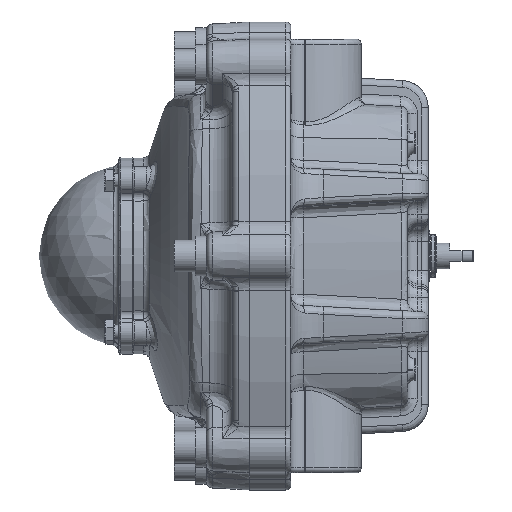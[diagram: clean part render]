
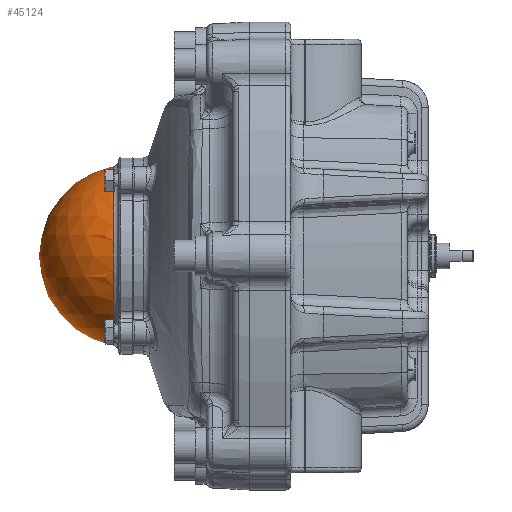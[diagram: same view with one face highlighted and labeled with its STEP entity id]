
A CAD part, left-side view. The second image highlights one B-rep face of the part: STEP entity #45124.
In plain terms, the highlighted spherical face has radius 33.782 mm.
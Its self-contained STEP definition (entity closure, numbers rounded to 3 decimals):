
#1534 = EDGE_CURVE ( 'NONE', #103904, #103904, #115647, .T. ) ;
#19162 = DIRECTION ( 'NONE',  ( 0., 1., 0. ) ) ;
#26311 = CARTESIAN_POINT ( 'NONE',  ( 0., 50.191, 0. ) ) ;
#43792 = EDGE_LOOP ( 'NONE', ( #111555 ) ) ;
#45124 = ADVANCED_FACE ( 'NONE', ( #67676 ), #77764, .T. ) ;
#48580 = AXIS2_PLACEMENT_3D ( 'NONE', #57678, #73825, #67108 ) ;
#57678 = CARTESIAN_POINT ( 'NONE',  ( 0., 44.018, 0. ) ) ;
#67108 = DIRECTION ( 'NONE',  ( 1., 0., 0. ) ) ;
#67676 = FACE_OUTER_BOUND ( 'NONE', #43792, .T. ) ;
#73825 = DIRECTION ( 'NONE',  ( 0., 0., -1. ) ) ;
#77764 = SPHERICAL_SURFACE ( 'NONE', #48580, 33.782 ) ;
#80020 = DIRECTION ( 'NONE',  ( -1., 0., 0. ) ) ;
#103904 = VERTEX_POINT ( 'NONE', #106229 ) ;
#106229 = CARTESIAN_POINT ( 'NONE',  ( -33.213, 50.191, 0. ) ) ;
#111555 = ORIENTED_EDGE ( 'NONE', *, *, #1534, .T. ) ;
#113785 = AXIS2_PLACEMENT_3D ( 'NONE', #26311, #19162, #80020 ) ;
#115647 = CIRCLE ( 'NONE', #113785, 33.213 ) ;
